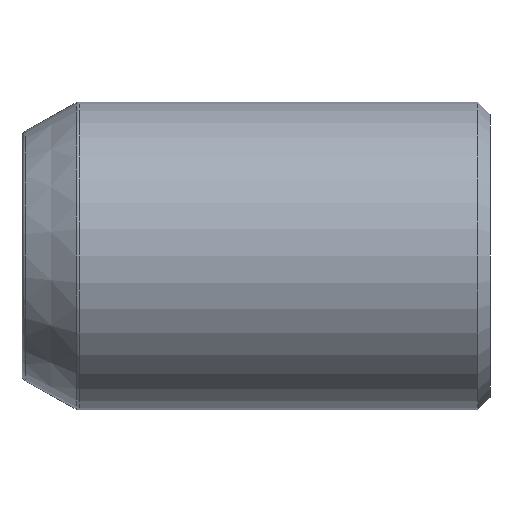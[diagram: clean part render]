
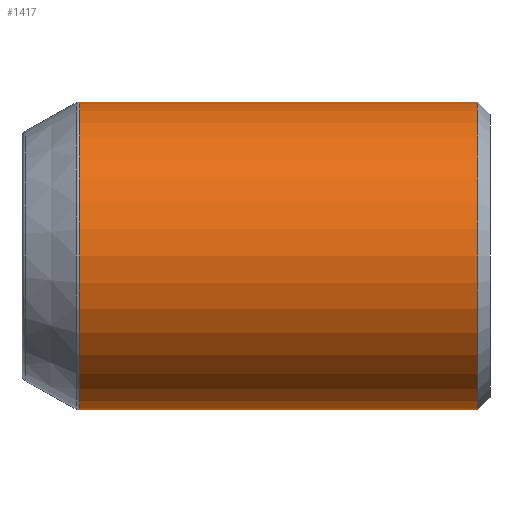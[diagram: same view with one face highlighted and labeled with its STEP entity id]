
A CAD part, left-side view. The second image highlights one B-rep face of the part: STEP entity #1417.
In plain terms, the highlighted cylindrical face has radius 12.5 mm (diameter 25 mm), a partial arc.
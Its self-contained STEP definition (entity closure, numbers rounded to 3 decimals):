
#151 = VERTEX_POINT ( 'NONE', #3448 ) ;
#626 = CARTESIAN_POINT ( 'NONE',  ( -6.115, -6.112, 13.153 ) ) ;
#673 = EDGE_LOOP ( 'NONE', ( #8273, #1668, #8906, #5874 ) ) ;
#893 = VECTOR ( 'NONE', #6720, 1000. ) ;
#1151 = CARTESIAN_POINT ( 'NONE',  ( -6.115, 30.888, 0.653 ) ) ;
#1417 = ADVANCED_FACE ( 'NONE', ( #4606 ), #7418, .T. ) ;
#1668 = ORIENTED_EDGE ( 'NONE', *, *, #3740, .T. ) ;
#1789 = CARTESIAN_POINT ( 'NONE',  ( -6.115, 30.888, -11.847 ) ) ;
#2345 = AXIS2_PLACEMENT_3D ( 'NONE', #4396, #8683, #2371 ) ;
#2371 = DIRECTION ( 'NONE',  ( 0., 0., 1. ) ) ;
#3204 = CARTESIAN_POINT ( 'NONE',  ( -6.115, 26.258, 13.153 ) ) ;
#3448 = CARTESIAN_POINT ( 'NONE',  ( -6.115, -6.112, -11.847 ) ) ;
#3740 = EDGE_CURVE ( 'NONE', #8082, #4521, #4554, .T. ) ;
#4154 = CARTESIAN_POINT ( 'NONE',  ( -6.115, 30.888, 13.153 ) ) ;
#4396 = CARTESIAN_POINT ( 'NONE',  ( -6.115, 26.258, 0.653 ) ) ;
#4521 = VERTEX_POINT ( 'NONE', #7421 ) ;
#4554 = CIRCLE ( 'NONE', #2345, 12.5 ) ;
#4606 = FACE_OUTER_BOUND ( 'NONE', #673, .T. ) ;
#4688 = LINE ( 'NONE', #1789, #893 ) ;
#4988 = CARTESIAN_POINT ( 'NONE',  ( -6.115, -6.112, 0.653 ) ) ;
#5789 = CIRCLE ( 'NONE', #6960, 12.5 ) ;
#5826 = DIRECTION ( 'NONE',  ( 0., 0., 1. ) ) ;
#5874 = ORIENTED_EDGE ( 'NONE', *, *, #8481, .T. ) ;
#6088 = DIRECTION ( 'NONE',  ( 0., 0., -1. ) ) ;
#6465 = EDGE_CURVE ( 'NONE', #4521, #151, #4688, .T. ) ;
#6720 = DIRECTION ( 'NONE',  ( 0., -1., 0. ) ) ;
#6946 = VECTOR ( 'NONE', #6970, 1000. ) ;
#6960 = AXIS2_PLACEMENT_3D ( 'NONE', #4988, #7247, #5826 ) ;
#6970 = DIRECTION ( 'NONE',  ( 0., -1., 0. ) ) ;
#7011 = VERTEX_POINT ( 'NONE', #626 ) ;
#7247 = DIRECTION ( 'NONE',  ( 0., 1., 0. ) ) ;
#7418 = CYLINDRICAL_SURFACE ( 'NONE', #8486, 12.5 ) ;
#7421 = CARTESIAN_POINT ( 'NONE',  ( -6.115, 26.258, -11.847 ) ) ;
#7666 = LINE ( 'NONE', #4154, #6946 ) ;
#8082 = VERTEX_POINT ( 'NONE', #3204 ) ;
#8250 = DIRECTION ( 'NONE',  ( 0., -1., 0. ) ) ;
#8273 = ORIENTED_EDGE ( 'NONE', *, *, #8863, .F. ) ;
#8481 = EDGE_CURVE ( 'NONE', #151, #7011, #5789, .T. ) ;
#8486 = AXIS2_PLACEMENT_3D ( 'NONE', #1151, #8250, #6088 ) ;
#8683 = DIRECTION ( 'NONE',  ( 0., -1., 0. ) ) ;
#8863 = EDGE_CURVE ( 'NONE', #8082, #7011, #7666, .T. ) ;
#8906 = ORIENTED_EDGE ( 'NONE', *, *, #6465, .T. ) ;
